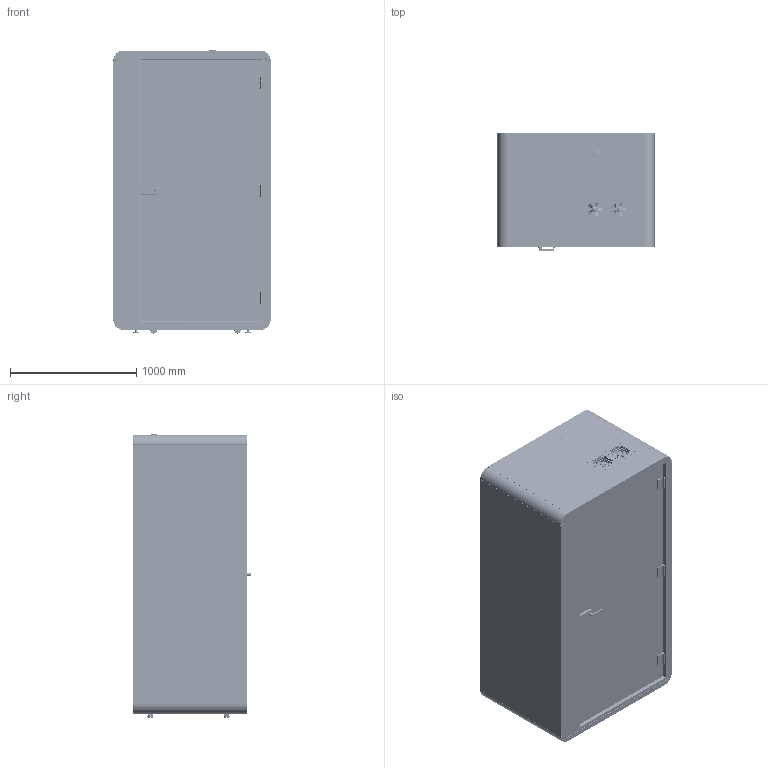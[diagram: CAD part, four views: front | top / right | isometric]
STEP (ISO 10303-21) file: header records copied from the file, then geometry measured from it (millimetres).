
FILE_DESCRIPTION(/* description */ (''),/* implementation_level */ '2;1');
FILE_NAME(/* name */ 'C:\Nextcloud\02_biblioteki_cad\mikomax\Zmiany w modelach 05.05\Eksporty-28-lipca\HUS-BX-220\INCH\HUS-BX-220-inch-close v2.stp',/* time_stamp */ '2022-07-28T17:36:57+02:00',/* author */ ('alane'),/* organization */ (''),/* preprocessor_version */ 'ST-DEVELOPER v18.1',/* originating_system */ 'Autodesk Inventor 2022',/* authorisation */ '');
FILE_SCHEMA (('CONFIG_CONTROL_DESIGN'));
Products named in the file (183): HUS-BX-220-DWG-mm; HUS-BX-220-DWG-mm109; HUS-BX-220-DWG-mm110; HUS-BX-220-DWG-mm120; HUS-BX-220-DWG-mm126; HUS-BX-220-DWG-mm127; HUS-BX-220-DWG-mm128; HUS-BX-220-DWG-mm141; HUS-BX-220-DWG-mm148; HUS-BX-220-DWG-mm149; HUS-BX-220-DWG-mm150; HUS-BX-220-DWG-mm151; HUS-BX-220-DWG-mm152; HUS-BX-220-DWG-mm161; HUS-BX-220-DWG-mm162; HUS-BX-220-DWG-mm163; HUS-BX-220-DWG-mm164; HUS-BX-220-DWG-mm165; HUS-BX-220-DWG-mm166; HUS-BX-220-DWG-mm167; HUS-BX-220-DWG-mm168; HUS-BX-220-DWG-mm184; HUS-BX-220-DWG-mm185; HUS-BX-220-DWG-mm186; HUS-BX-220-DWG-mm187; HUS-BX-220-DWG-mm188; HUS-BX-220-DWG-mm189; HUS-BX-220-DWG-mm190; HUS-BX-220-DWG-mm191; HUS-BX-220-DWG-mm192; HUS-BX-220-DWG-mm193; HUS-BX-220-DWG-mm194; HUS-BX-220-DWG-mm195; HUS-BX-220-DWG-mm196; HUS-BX-220-DWG-mm197; HUS-BX-220-DWG-mm198; HUS-BX-220-DWG-mm199; HUS-BX-220-DWG-mm200; HUS-BX-220-DWG-mm244; HUS-BX-220-DWG-mm245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
Assembly tree (220 placements, depth 4):
  HUS-BX-220-DWG-mm
    HUS-BX-220-DWG-mm109
    HUS-BX-220-DWG-mm110
    HUS-BX-220-DWG-mm120
    HUS-BX-220-DWG-mm126
    HUS-BX-220-DWG-mm127
    HUS-BX-220-DWG-mm128
    HUS-BX-220-DWG-mm141
    HUS-BX-220-DWG-mm148
    HUS-BX-220-DWG-mm149
    HUS-BX-220-DWG-mm150
    HUS-BX-220-DWG-mm151
    HUS-BX-220-DWG-mm152
    HUS-BX-220-DWG-mm161
    HUS-BX-220-DWG-mm162
    HUS-BX-220-DWG-mm163
    HUS-BX-220-DWG-mm164
    HUS-BX-220-DWG-mm165
    HUS-BX-220-DWG-mm166
    HUS-BX-220-DWG-mm167
    HUS-BX-220-DWG-mm168
    HUS-BX-220-DWG-mm184
    HUS-BX-220-DWG-mm185
    HUS-BX-220-DWG-mm186
    HUS-BX-220-DWG-mm187
    HUS-BX-220-DWG-mm188
    HUS-BX-220-DWG-mm189
    HUS-BX-220-DWG-mm190
    HUS-BX-220-DWG-mm191
    HUS-BX-220-DWG-mm192
    HUS-BX-220-DWG-mm193
    HUS-BX-220-DWG-mm194
    HUS-BX-220-DWG-mm195
    HUS-BX-220-DWG-mm196
    HUS-BX-220-DWG-mm197
    HUS-BX-220-DWG-mm198
    HUS-BX-220-DWG-mm199
    HUS-BX-220-DWG-mm200
    HUS-BX-220-DWG-mm244
    HUS-BX-220-DWG-mm245
    HUS-BX-220-DWG-mm246
    HUS-BX-220-DWG-mm247
    HUS-BX-220-DWG-mm248
    HUS-BX-220-DWG-mm249
    HUS-BX-220-DWG-mm250
    HUS-BX-220-DWG-mm251
    HUS-BX-220-DWG-mm252
    HUS-BX-220-DWG-mm253
    HUS-BX-220-DWG-mm254
    HUS-BX-220-DWG-mm255
    HUS-BX-220-DWG-mm256
    HUS-BX-220-DWG-mm257
    HUS-BX-220-DWG-mm258
    HUS-BX-220-DWG-mm259
    HUS-BX-220-DWG-mm260
    HUS-BX-220-DWG-mm261
    HUS-BX-220-DWG-mm262
    HUS-BX-220-DWG-mm263
    HUS-BX-220-DWG-mm264
    HUS-BX-220-DWG-mm265
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Bounding box: 1244 x 927.78 x 2241.1 mm (x, y, z)
Volume: 798925732.5 mm3; surface area: 54608474.8 mm2
Topology: 285 solids, 285 shells, 12109 faces, 31128 edges, 20118 vertices
Faces by surface type: plane 6203, cylinder 3844, bspline 813, cone 760, torus 339, sphere 150
Full cylindrical faces by diameter (mm): 0.25 x14, 0.3 x12, 0.5 x6, 1.104 x1, 2 x125, 2.5 x2, 3 x7, 3.2 x19, 3.242 x2, 3.3 x4, 3.5 x2, 4 x17, 4.134 x9, 4.5 x16, 4.917 x10, 5 x103, 5.134 x3, 5.5 x18, 5.693 x2, 6 x4, 6.3 x8, 6.647 x44, 6.693 x2, 7 x46, 8 x80, 8.376 x8, 8.4 x8, 9 x24, 10 x70, 10.5 x4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
Entity records: 365916 total; most frequent: CARTESIAN_POINT 101998, ORIENTED_EDGE 53376, DIRECTION 51939, EDGE_CURVE 26688, AXIS2_PLACEMENT_3D 17622, VERTEX_POINT 17359, LINE 16695, VECTOR 16695
